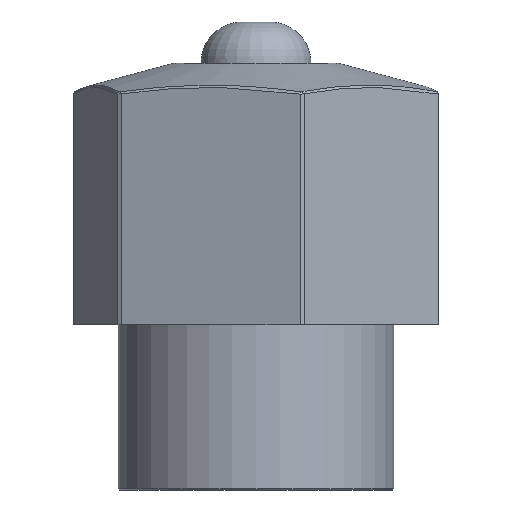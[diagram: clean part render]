
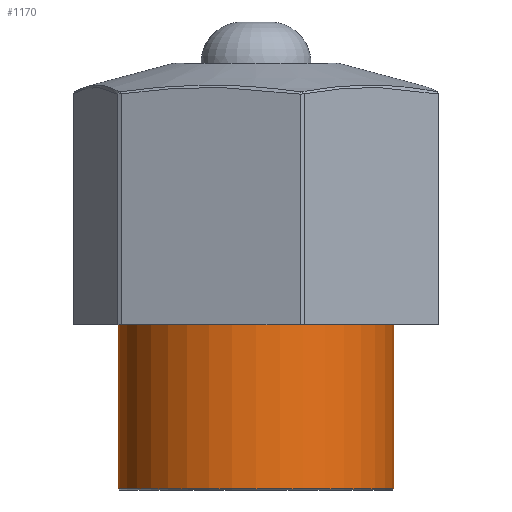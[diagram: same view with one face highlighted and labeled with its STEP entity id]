
A CAD part, front view. The second image highlights one B-rep face of the part: STEP entity #1170.
In plain terms, the highlighted cylindrical face has radius 10 mm (diameter 20 mm), a partial arc.
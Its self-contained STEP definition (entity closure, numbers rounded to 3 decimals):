
#1 = CARTESIAN_POINT ( 'NONE',  ( 10., 0., 12. ) ) ;
#90 = FACE_OUTER_BOUND ( 'NONE', #636, .T. ) ;
#142 = CARTESIAN_POINT ( 'NONE',  ( 0., 0., 12. ) ) ;
#145 = EDGE_CURVE ( 'NONE', #2101, #1555, #1334, .T. ) ;
#285 = VECTOR ( 'NONE', #1512, 1000. ) ;
#357 = CARTESIAN_POINT ( 'NONE',  ( -10., 0., 12. ) ) ;
#409 = CARTESIAN_POINT ( 'NONE',  ( -10., 0., 0.1 ) ) ;
#429 = EDGE_CURVE ( 'NONE', #1358, #2101, #700, .T. ) ;
#512 = ORIENTED_EDGE ( 'NONE', *, *, #429, .F. ) ;
#561 = DIRECTION ( 'NONE',  ( 0., 0., 1. ) ) ;
#636 = EDGE_LOOP ( 'NONE', ( #2226, #512, #684, #2404 ) ) ;
#682 = VERTEX_POINT ( 'NONE', #409 ) ;
#684 = ORIENTED_EDGE ( 'NONE', *, *, #1322, .T. ) ;
#698 = DIRECTION ( 'NONE',  ( -1., 0., 0. ) ) ;
#700 = CIRCLE ( 'NONE', #1709, 10. ) ;
#862 = DIRECTION ( 'NONE',  ( 1., 0., 0. ) ) ;
#886 = DIRECTION ( 'NONE',  ( 1., 0., 0. ) ) ;
#1081 = VECTOR ( 'NONE', #2317, 1000. ) ;
#1170 = ADVANCED_FACE ( 'NONE', ( #90 ), #1972, .T. ) ;
#1322 = EDGE_CURVE ( 'NONE', #1358, #682, #1869, .T. ) ;
#1334 = LINE ( 'NONE', #1546, #1081 ) ;
#1358 = VERTEX_POINT ( 'NONE', #357 ) ;
#1418 = DIRECTION ( 'NONE',  ( 0., 0., 1. ) ) ;
#1512 = DIRECTION ( 'NONE',  ( 0., 0., -1. ) ) ;
#1546 = CARTESIAN_POINT ( 'NONE',  ( 10., 0., 12. ) ) ;
#1555 = VERTEX_POINT ( 'NONE', #1806 ) ;
#1586 = CARTESIAN_POINT ( 'NONE',  ( 0., 0., 0.1 ) ) ;
#1709 = AXIS2_PLACEMENT_3D ( 'NONE', #1822, #561, #886 ) ;
#1806 = CARTESIAN_POINT ( 'NONE',  ( 10., 0., 0.1 ) ) ;
#1822 = CARTESIAN_POINT ( 'NONE',  ( 0., 0., 12. ) ) ;
#1869 = LINE ( 'NONE', #2421, #285 ) ;
#1888 = EDGE_CURVE ( 'NONE', #682, #1555, #2406, .T. ) ;
#1972 = CYLINDRICAL_SURFACE ( 'NONE', #2405, 10. ) ;
#1988 = DIRECTION ( 'NONE',  ( 0., 0., -1. ) ) ;
#2101 = VERTEX_POINT ( 'NONE', #1 ) ;
#2226 = ORIENTED_EDGE ( 'NONE', *, *, #145, .F. ) ;
#2247 = AXIS2_PLACEMENT_3D ( 'NONE', #1586, #1418, #862 ) ;
#2317 = DIRECTION ( 'NONE',  ( 0., 0., -1. ) ) ;
#2404 = ORIENTED_EDGE ( 'NONE', *, *, #1888, .T. ) ;
#2405 = AXIS2_PLACEMENT_3D ( 'NONE', #142, #1988, #698 ) ;
#2406 = CIRCLE ( 'NONE', #2247, 10. ) ;
#2421 = CARTESIAN_POINT ( 'NONE',  ( -10., 0., 12. ) ) ;
